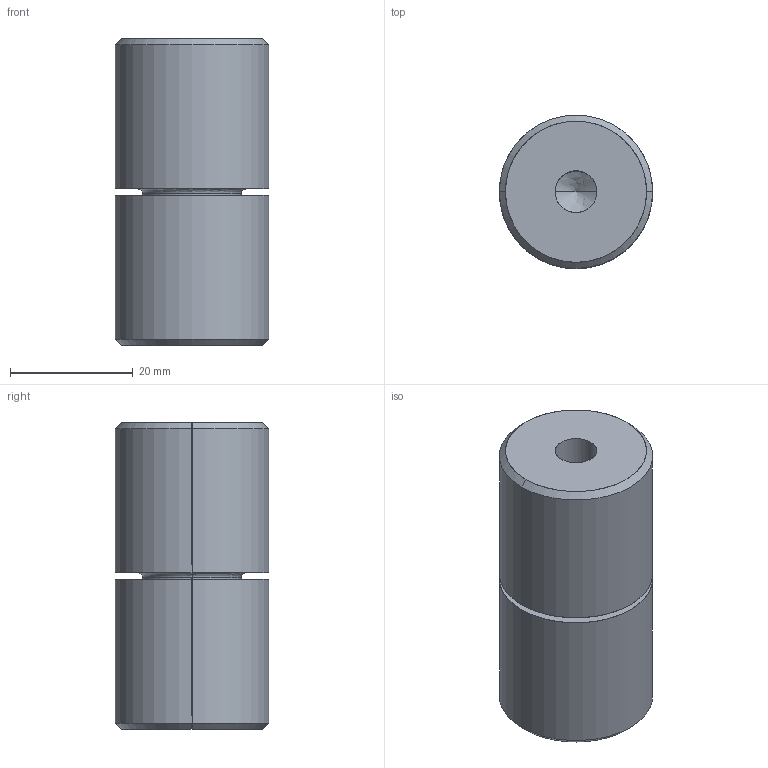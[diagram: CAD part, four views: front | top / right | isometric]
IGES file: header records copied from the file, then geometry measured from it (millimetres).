
Start section: SolidWorks IGES file using analytic representation for surfaces
Global section: file name: D:\Current\W1\TPNF25-13-1\TPNF25-13-1.IGS; native system: SolidWorks 2017; preprocessor: SolidWorks 2017; author: Ravi Kalvai; date: 240503.131437; units: millimetre
Bounding box: 25 x 25 x 50 mm (x, y, z)
Surface area: 7678.8 mm2 (no closed solid volume)
Topology: 0 solids, 0 shells, 34 faces, 464 edges, 462 vertices
Faces by surface type: revolution 20, bspline 14
